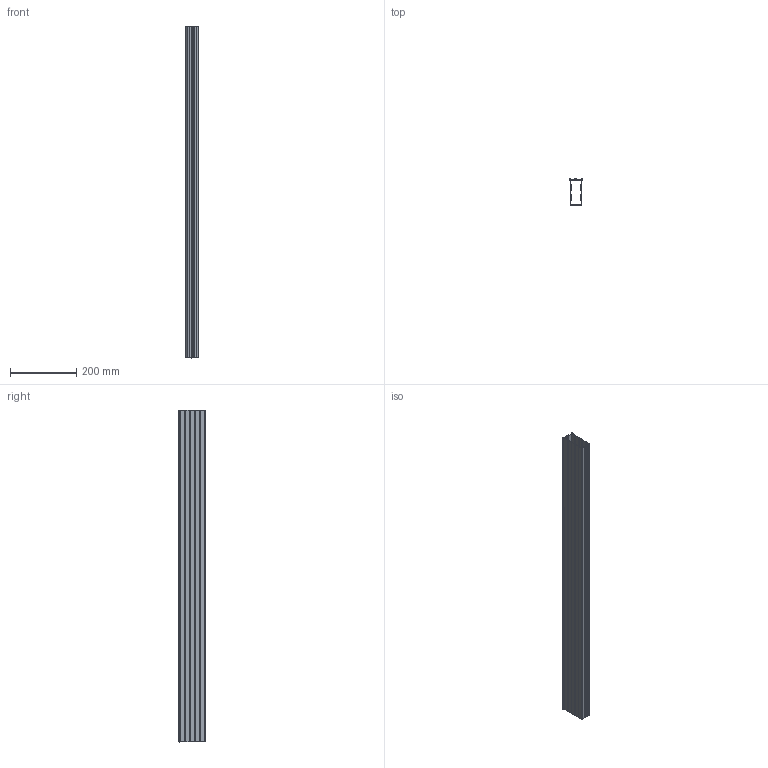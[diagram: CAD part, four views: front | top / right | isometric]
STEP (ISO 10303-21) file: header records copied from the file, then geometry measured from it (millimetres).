
FILE_DESCRIPTION (( 'STEP AP203' ), '1' );
FILE_NAME ('DN53252.STEP', '2025-10-31T07:08:46', ( '' ), ( '' ), 'SwSTEP 2.0', 'SolidWorks 2019', '' );
FILE_SCHEMA (( 'CONFIG_CONTROL_DESIGN' ));
Length unit declared in the file: millimetre
Products named in the file (1): DN53252
Bounding box: 40.2 x 78.58 x 1000 mm (x, y, z)
Volume: 368260.2 mm3; surface area: 490471.1 mm2
Topology: 1 solids, 1 shells, 113 faces, 333 edges, 222 vertices
Faces by surface type: cylinder 59, plane 50, bspline 4
Entity records: 3926 total; most frequent: CARTESIAN_POINT 753, ORIENTED_EDGE 666, DIRECTION 663, EDGE_CURVE 333, AXIS2_PLACEMENT_3D 228, VERTEX_POINT 222, LINE 207, VECTOR 207
